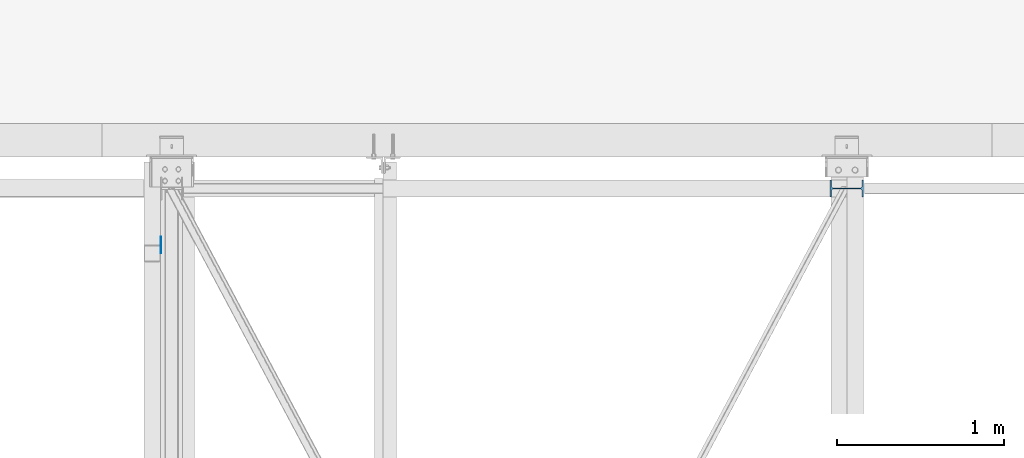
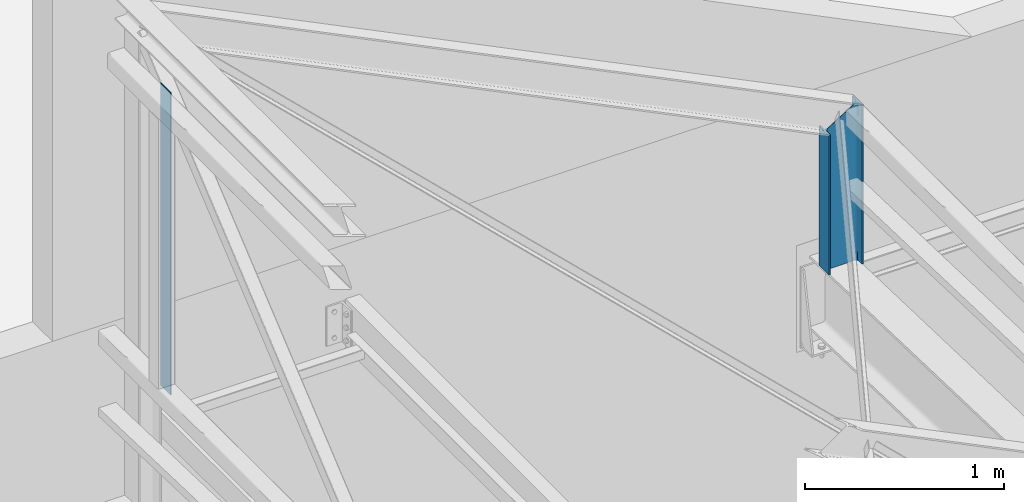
# One storey, part 57 of 123: 2 discrete accessories, 2 elements without a shape of their own.
"""IFC2X3 building model written with IfcOpenShell, lengths in millimetres."""

from ifc_helpers import new_model, si_unit, frame, origin_with_axes, origin_2d_with_axis, place, context, subcontext, project, spatial, polyline, i_section, outline, extrude, clip, halfspace, material, type_object, element, aggregate, save


model = new_model("IFC2X3")

# Units and contexts
model_context = context("Model", 3, precision=1e-05, world=origin_with_axes())
body_context = subcontext(model_context, "Body", "Model", "MODEL_VIEW")
ifc_project = project(units=[si_unit("LENGTHUNIT", "METRE", prefix="MILLI"), si_unit("AREAUNIT", "SQUARE_METRE"), si_unit("VOLUMEUNIT", "CUBIC_METRE"), si_unit("MASSUNIT", "GRAM", prefix="KILO"), si_unit("TIMEUNIT", "SECOND"), si_unit("PLANEANGLEUNIT", "RADIAN"), si_unit("SOLIDANGLEUNIT", "STERADIAN"), si_unit("THERMODYNAMICTEMPERATUREUNIT", "DEGREE_CELSIUS"), si_unit("LUMINOUSINTENSITYUNIT", "LUMEN")], contexts=[model_context])

# Site, building, storey
site_placement = place(None, origin_with_axes())
site = spatial("IfcSite", under=ifc_project, at=site_placement, Name="Undefined", CompositionType="ELEMENT")
building_placement = place(site_placement, origin_with_axes())
building = spatial("IfcBuilding", under=site, at=building_placement, Name="Undefined", CompositionType="ELEMENT")
storey_placement = place(building_placement, origin_with_axes())
storey = spatial("IfcBuildingStorey", under=building, at=storey_placement, Name="Undefined", CompositionType="ELEMENT", Elevation=0.0)

# Assembly, discrete accessory
assembly_1_placement = place(storey_placement, origin_with_axes())
assembly_1 = element("IfcElementAssembly", 1, at=assembly_1_placement, inside=storey, Name="Steel Assembly", AssemblyPlace="NOTDEFINED", PredefinedType="RIGID_FRAME")
ifc_material_1 = material(Name="STEEL/S235-E24")
discrete_accessory_type_1 = type_object("IfcDiscreteAccessoryType", Name="FEUILLURE")
discrete_accessory_1_placement = place(assembly_1_placement, frame((34215.9998943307, 14860.0001581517, 8450.0), z_axis=(-1.0, 0.0, 0.0), x_axis=(0.0, 0.0, 1.0)))
discrete_accessory_1 = element("IfcDiscreteAccessory", 2, at=discrete_accessory_1_placement, type_object=discrete_accessory_type_1, material=ifc_material_1, Name="FEUILLURE", ObjectType="PL100*5", context=body_context, shape_type="SweptSolid", body=[
    extrude(outline(polyline([(0.0, -50.0), (0.0, 50.0), (1855.0, 50.0), (1855.0, -50.0), (0.0, -50.0)])), frame((0.0, 0.0, -2.5), z_axis=(0.0, 0.0, 1.0), x_axis=(1.0, 0.0, 0.0)), (0.0, 0.0, 1.0), 5.0),
])
aggregate(assembly_1, [discrete_accessory_1])

assembly_2_placement = place(storey_placement, origin_with_axes())
assembly_2 = element("IfcElementAssembly", 3, at=assembly_2_placement, inside=storey, Name="Steel Assembly", AssemblyPlace="NOTDEFINED", PredefinedType="RIGID_FRAME")
ifc_material_2 = material(Name="STEEL/S275-E28")
discrete_accessory_type_2 = type_object("IfcDiscreteAccessoryType", Name="TRAVERSE SHED")
discrete_accessory_2_placement = place(assembly_2_placement, frame((38330.0, 15200.0, 7572.3207892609), z_axis=(0.0, 0.0, 1.0), x_axis=(-1.0, 0.0, 0.0)))
discrete_accessory_2 = element("IfcDiscreteAccessory", 4, at=discrete_accessory_2_placement, type_object=discrete_accessory_type_2, material=ifc_material_2, Name="TRAVERSE SHED", ObjectType="IPE200", context=body_context, shape_type="Clipping", body=[
    clip(extrude(i_section(OverallWidth=100.0, OverallDepth=200.0, WebThickness=5.599999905, FlangeThickness=8.5, FilletRadius=12.0, at=origin_2d_with_axis()), frame((0.0, 0.0, 978.301874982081), z_axis=(0.0, 0.0, -1.0), x_axis=(0.0, 1.0, 0.0)), (0.0, 0.0, 1.0), 978.3), halfspace(frame((100.0, 15200.0, 853.14611483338), z_axis=(-0.528573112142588, 0.0, -0.848887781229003), x_axis=(0.0, 1.0, 0.0)), True)),
])
aggregate(assembly_2, [discrete_accessory_2])

save(model, "model.ifc")
